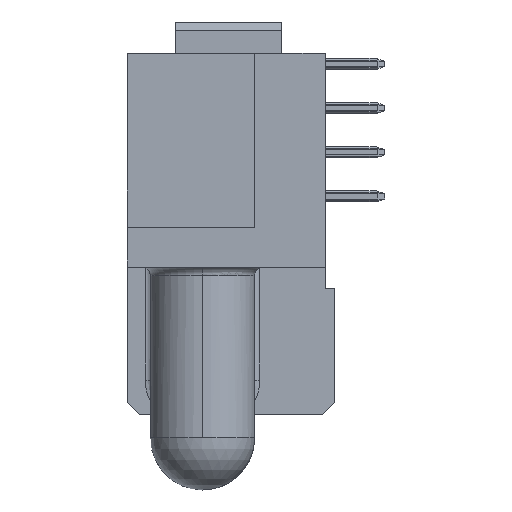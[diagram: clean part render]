
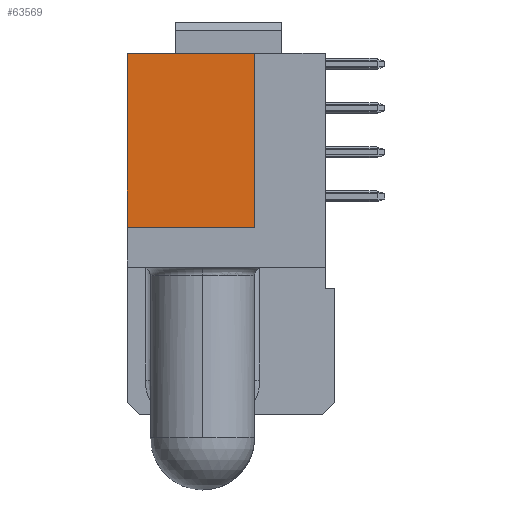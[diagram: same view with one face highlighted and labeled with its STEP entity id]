
A CAD part, left-side view. The second image highlights one B-rep face of the part: STEP entity #63569.
In plain terms, the highlighted planar face has unit normal (-1, 0, 0).
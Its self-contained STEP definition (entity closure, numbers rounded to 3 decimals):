
#14666 = VECTOR ( 'NONE', #18416, 1000. ) ;
#14728 = VECTOR ( 'NONE', #18597, 1000. ) ;
#14736 = VECTOR ( 'NONE', #18603, 1000. ) ;
#14737 = VECTOR ( 'NONE', #18606, 1000. ) ;
#18402 = LINE ( 'NONE', #18414, #14666 ) ;
#18414 = CARTESIAN_POINT ( 'NONE',  ( -30.33, 1.282, 32.719 ) ) ;
#18416 = DIRECTION ( 'NONE',  ( 0., 0., 1. ) ) ;
#18571 = LINE ( 'NONE', #18596, #14728 ) ;
#18596 = CARTESIAN_POINT ( 'NONE',  ( -30.33, -20.249, 32.709 ) ) ;
#18597 = DIRECTION ( 'NONE',  ( 0., 1., 0. ) ) ;
#18601 = LINE ( 'NONE', #18602, #14736 ) ;
#18602 = CARTESIAN_POINT ( 'NONE',  ( -30.33, 1.282, 22.709 ) ) ;
#18603 = DIRECTION ( 'NONE',  ( 0., 1., 0. ) ) ;
#18604 = LINE ( 'NONE', #18605, #14737 ) ;
#18605 = CARTESIAN_POINT ( 'NONE',  ( -30.33, 8.612, 12.979 ) ) ;
#18606 = DIRECTION ( 'NONE',  ( 0., 0., -1. ) ) ;
#22557 = CARTESIAN_POINT ( 'NONE',  ( -30.33, 1.282, 22.709 ) ) ;
#22560 = CARTESIAN_POINT ( 'NONE',  ( -30.33, 1.282, 32.709 ) ) ;
#22596 = CARTESIAN_POINT ( 'NONE',  ( -30.33, 8.612, 22.709 ) ) ;
#22598 = CARTESIAN_POINT ( 'NONE',  ( -30.33, 8.612, 32.709 ) ) ;
#26960 = AXIS2_PLACEMENT_3D ( 'NONE', #28631, #28633, #28635 ) ;
#28581 = PLANE ( 'NONE',  #26960 ) ;
#28611 = FACE_OUTER_BOUND ( 'NONE', #62093, .T. ) ;
#28631 = CARTESIAN_POINT ( 'NONE',  ( -30.33, -20.249, 32.719 ) ) ;
#28633 = DIRECTION ( 'NONE',  ( -1., 0., 0. ) ) ;
#28635 = DIRECTION ( 'NONE',  ( 0., 0., 1. ) ) ;
#57315 = EDGE_CURVE ( 'NONE', #61408, #61413, #18402, .T. ) ;
#57463 = EDGE_CURVE ( 'NONE', #61413, #61482, #18571, .T. ) ;
#57468 = EDGE_CURVE ( 'NONE', #61408, #61478, #18601, .T. ) ;
#57471 = EDGE_CURVE ( 'NONE', #61482, #61478, #18604, .T. ) ;
#61408 = VERTEX_POINT ( 'NONE', #22557 ) ;
#61413 = VERTEX_POINT ( 'NONE', #22560 ) ;
#61478 = VERTEX_POINT ( 'NONE', #22596 ) ;
#61482 = VERTEX_POINT ( 'NONE', #22598 ) ;
#62093 = EDGE_LOOP ( 'NONE', ( #68554, #68552, #68558, #68572 ) ) ;
#63569 = ADVANCED_FACE ( 'NONE', ( #28611 ), #28581, .T. ) ;
#68552 = ORIENTED_EDGE ( 'NONE', *, *, #57315, .T. ) ;
#68554 = ORIENTED_EDGE ( 'NONE', *, *, #57468, .F. ) ;
#68558 = ORIENTED_EDGE ( 'NONE', *, *, #57463, .T. ) ;
#68572 = ORIENTED_EDGE ( 'NONE', *, *, #57471, .T. ) ;
